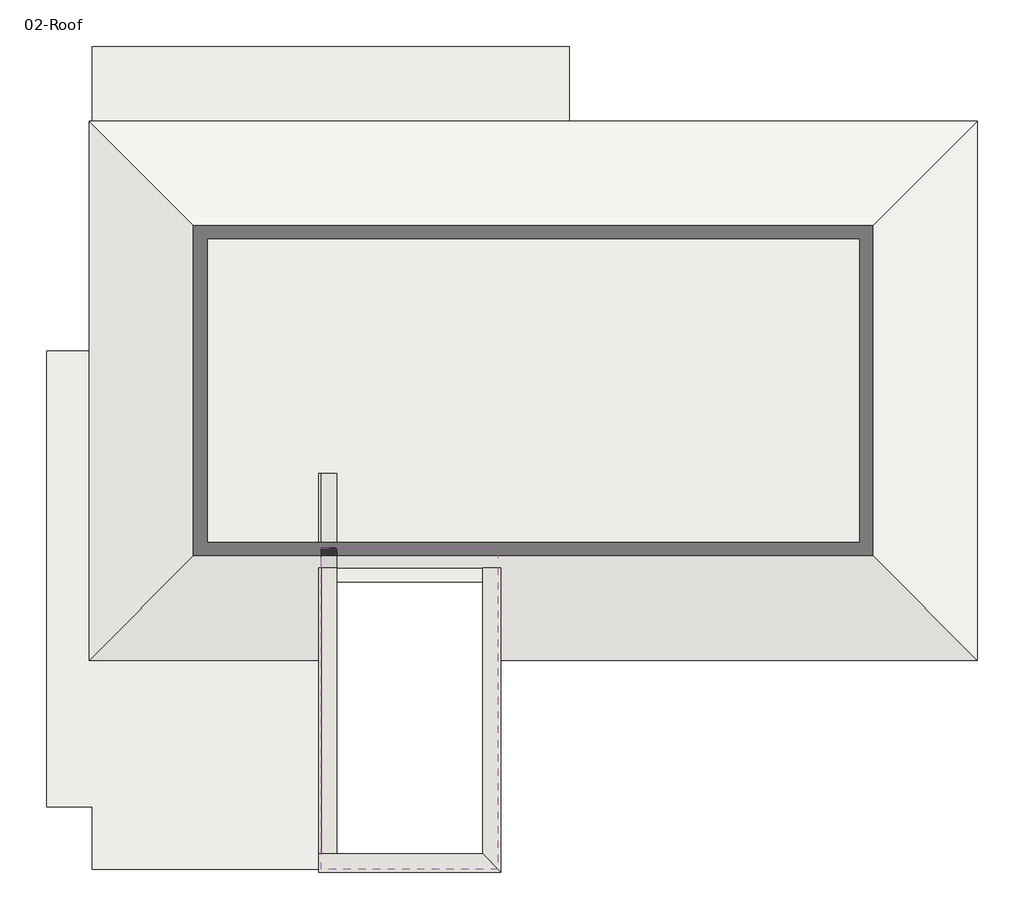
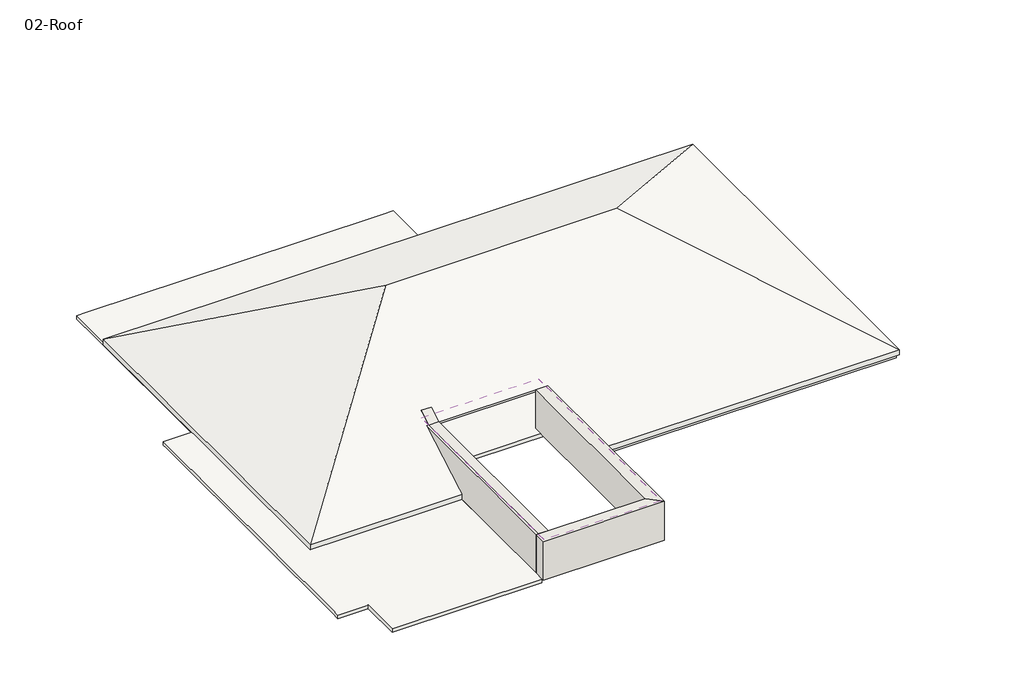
# One storey: 3 walls, 2 roofs, 1 slab.
"""IFC4 building model written with IfcOpenShell, lengths in millimetres."""

from ifc_helpers import new_model, si_unit, frame, origin, place, context, project, spatial, polyline, outline, extrude, faceted_brep, element, save

model = new_model("IFC4")

# Units and contexts
model_context = context("Model", 3, world=origin())
ifc_project = project(units=[si_unit("LENGTHUNIT", "METRE", prefix="MILLI")], contexts=[model_context])

# Site, building, storey
site = spatial("IfcSite", under=ifc_project)
building = spatial("IfcBuilding", under=site)
storey = spatial("IfcBuildingStorey", under=building, Name="02-Roof", Elevation=3500.0)

# Roofs
placement = place(None, origin())
element("IfcRoof", 1, ObjectType="Generic - 125mm", at=placement, inside=storey, context=model_context, shape_type="Brep", body=[
    faceted_brep([(-8596.7546759, -507.6867276, 6233.068918), (-13330.5689025, 4226.127499, 3500.0), (2256.4825148, 4226.127499, 3500.0), (-2477.3317118, -507.6867276, 6233.068918), (-13330.5689025, -5241.5009541, 3500.0), (2256.4825148, -5241.5009541, 3500.0), (-6107.8802351, -5241.5009541, 3500.0), (-6107.8802351, -3558.3860819, 4471.7468245), (-9257.8802351, -3558.3860819, 4471.7468245), (-9257.8802351, -3866.5009541, 4293.8566201), (-9307.8802351, -3866.5009541, 4293.8566201), (-9307.8802351, -5241.5009541, 3500.0), (-13330.5689025, 4226.127499, 3644.3375673), (-8596.7546759, -507.6867276, 6377.4064853), (-2477.3317118, -507.6867276, 6377.4064853), (2256.4825148, 4226.127499, 3644.3375673), (-13330.5689025, -5241.5009541, 3644.3375673), (2256.4825148, -5241.5009541, 3644.3375673), (-9307.8802351, -5241.5009541, 3644.3375673), (-9307.8802351, -3866.5009541, 4438.1941874), (-9257.8802351, -3866.5009541, 4438.1941874), (-9257.8802351, -3620.8860819, 4580.0), (-6107.8802351, -3620.8860819, 4580.0), (-6107.8802351, -5241.5009541, 3644.3375673)], [[[0, 1, 2, 3]], [[1, 0, 4]], [[3, 2, 5]], [[0, 3, 5, 6, 7, 8, 9, 10, 11, 4]], [[12, 13, 14, 15]], [[13, 12, 16]], [[15, 14, 17]], [[14, 13, 16, 18, 19, 20, 21, 22, 23, 17]], [[16, 12, 1, 4]], [[18, 16, 4, 11]], [[15, 17, 5, 2]], [[12, 15, 2, 1]], [[17, 23, 6, 5]], [[18, 11, 10, 19]], [[22, 7, 6, 23]], [[19, 10, 9, 20]], [[8, 21, 20, 9]], [[7, 22, 21, 8]]]),
])
element("IfcRoof", 2, ObjectType="Generic - 200mm", at=placement, inside=storey, context=model_context, shape_type="SweptSolid", body=[
    extrude(outline(polyline([(-8912.9805769, 4780.0), (-3274.4759204, 4780.0), (-3620.8860819, 4580.0), (-8912.9805769, 4580.0), (-8912.9805769, 4780.0)])), frame((-9257.8802351, 0.0, 0.0), z_axis=(1.0, 0.0, 0.0), x_axis=(0.0, 1.0, 0.0)), (0.0, 0.0, 1.0), 3100.0),
])

# Slab
element("IfcSlab", 3, ObjectType="Floor-Concrete 100mm", at=placement, inside=storey, context=model_context, shape_type="Brep", body=[
    faceted_brep([(-13280.5689025, 5533.8965304, 3400.0), (-13030.5689025, 5533.8965304, 3400.0), (-13010.5689025, 5533.8965304, 3400.0), (-9315.0580776, 5533.8965304, 3400.0), (-9065.0580776, 5533.8965304, 3400.0), (-9045.0580776, 5533.8965304, 3400.0), (-5177.8802351, 5533.8965304, 3400.0), (-4907.8802351, 5533.8965304, 3400.0), (-4907.8802351, 4226.127499, 3400.0), (-4907.8802351, 4176.127499, 3400.0), (1956.4825148, 4176.127499, 3400.0), (2206.4825148, 4176.127499, 3400.0), (2206.4825148, 3576.127499, 3400.0), (2206.4825148, 33.8965304, 3400.0), (2206.4825148, -766.1034696, 3400.0), (2206.4825148, -3866.5009541, 3400.0), (2206.4825148, -4666.5009541, 3400.0), (2206.4825148, -5191.5009541, 3400.0), (-6107.8802351, -5191.5009541, 3400.0), (-6107.8802351, -4921.5009541, 3400.0), (-6107.8802351, -3866.5009541, 3400.0), (-9315.0580776, -3866.5009541, 3400.0), (-9315.0580776, -8642.9805769, 3400.0), (-9315.0580776, -8912.9805769, 3400.0), (-13280.5689025, -8912.9805769, 3400.0), (-13280.5689025, -7816.5009541, 3400.0), (-13330.5689025, -7816.5009541, 3400.0), (-14080.5689025, -7816.5009541, 3400.0), (-14080.5689025, -7546.5009541, 3400.0), (-14080.5689025, -4318.0271687, 3400.0), (-14080.5689025, -3518.0271687, 3400.0), (-14080.5689025, -766.1034696, 3400.0), (-14080.5689025, 33.8965304, 3400.0), (-14080.5689025, 183.8965304, 3400.0), (-13330.5689025, 183.8965304, 3400.0), (-13280.5689025, 183.8965304, 3400.0), (-13280.5689025, 4733.8965304, 3400.0), (-13280.5689025, 5533.8965304, 3500.0), (-13280.5689025, 183.8965304, 3500.0), (-13330.5689025, 183.8965304, 3500.0), (-14080.5689025, 183.8965304, 3500.0), (-14080.5689025, -7546.5009541, 3500.0), (-14080.5689025, -7816.5009541, 3500.0), (-13330.5689025, -7816.5009541, 3500.0), (-13280.5689025, -7816.5009541, 3500.0), (-13280.5689025, -8912.9805769, 3500.0), (-9315.0580776, -8912.9805769, 3500.0), (-9315.0580776, -8642.9805769, 3500.0), (-9315.0580776, -4666.5009541, 3500.0), (-9315.0580776, -3866.5009541, 3500.0), (-9065.0580776, -3866.5009541, 3500.0), (-6407.8802351, -3866.5009541, 3500.0), (-6157.8802351, -3866.5009541, 3500.0), (-6107.8802351, -3866.5009541, 3500.0), (-6107.8802351, -5191.5009541, 3500.0), (2206.4825148, -5191.5009541, 3500.0), (2206.4825148, 4176.127499, 3500.0), (-4907.8802351, 4176.127499, 3500.0), (-4907.8802351, 4226.127499, 3500.0), (-4907.8802351, 5533.8965304, 3500.0), (-5177.8802351, 5533.8965304, 3500.0), (-9045.0580776, 5533.8965304, 3500.0), (-13010.5689025, 5533.8965304, 3500.0), (-9315.0580776, -8912.9805769, 3444.3375673), (-13280.5689025, -8912.9805769, 3444.3375673), (-13280.5689025, -7816.5009541, 3444.3375673), (-14080.5689025, -7816.5009541, 3444.3375673), (-13280.5689025, 183.8965304, 3444.3375673)], [[[0, 1, 2, 3, 4, 5, 6, 7, 8, 9, 10, 11, 12, 13, 14, 15, 16, 17, 18, 19, 20, 21, 22, 23, 24, 25, 26, 27, 28, 29, 30, 31, 32, 33, 34, 35, 36]], [[37, 38, 39, 40, 41, 42, 43, 44, 45, 46, 47, 48, 49, 50, 51, 52, 53, 54, 55, 56, 57, 58, 59, 60, 61, 62]], [[7, 6, 5, 4, 3, 2, 1, 0, 37, 62, 61, 60, 59]], [[9, 8, 7, 59, 58, 57]], [[11, 10, 9, 57, 56]], [[17, 16, 15, 14, 13, 12, 11, 56, 55]], [[18, 17, 55, 54]], [[24, 23, 63, 46, 45, 64]], [[25, 24, 64, 45, 44, 65]], [[27, 26, 25, 65, 44, 43, 42, 66]], [[33, 32, 31, 30, 29, 28, 27, 66, 42, 41, 40]], [[35, 34, 33, 40, 39, 38, 67]], [[0, 36, 35, 67, 38, 37]], [[20, 19, 18, 54, 53]], [[21, 20, 53, 52, 51, 50, 49]], [[23, 22, 21, 49, 48, 47, 46, 63]]]),
])

# Walls
element("IfcWall", 4, ObjectType="Exterior Wall 50+100+50+100 CMU", at=placement, inside=storey, context=model_context, shape_type="Brep", body=[
    faceted_brep([(-6427.8802351, -3620.8860819, 3500.0), (-6427.8802351, -3866.5009541, 3500.0), (-6427.8802351, -8642.9805769, 3500.0), (-6427.8802351, -8642.9805769, 4580.0), (-6427.8802351, -3620.8860819, 4580.0), (-6107.8802351, -3620.8860819, 3500.0), (-6107.8802351, -3620.8860819, 4580.0), (-6107.8802351, -8962.9805769, 4580.0), (-6107.8802351, -8962.9805769, 3500.0), (-6107.8802351, -3866.5009541, 3500.0)], [[[0, 1, 2, 3, 4]], [[5, 6, 7, 8, 9]], [[2, 1, 0, 5, 9, 8]], [[4, 3, 7, 6]], [[0, 4, 6, 5]], [[3, 2, 8, 7]]]),
])
element("IfcWall", 5, ObjectType="Exterior Wall 50+100+50+100 CMU", at=placement, inside=storey, context=model_context, shape_type="Brep", body=[
    faceted_brep([(-6427.8802351, -8642.9805769, 3500.0), (-8987.8802351, -8642.9805769, 3500.0), (-9190.0580776, -8642.9805769, 3500.0), (-9307.8802351, -8642.9805769, 3500.0), (-9307.8802351, -8642.9805769, 4580.0), (-8987.8802351, -8642.9805769, 4580.0), (-6427.8802351, -8642.9805769, 4580.0), (-6107.8802351, -8962.9805769, 3500.0), (-6107.8802351, -8962.9805769, 4580.0), (-9307.8802351, -8962.9805769, 4580.0), (-9307.8802351, -8962.9805769, 3500.0), (-9190.0580776, -8962.9805769, 3500.0)], [[[0, 1, 2, 3, 4, 5, 6]], [[7, 8, 9, 10, 11]], [[3, 2, 1, 0, 7, 11, 10]], [[6, 5, 4, 9, 8]], [[0, 6, 8, 7]], [[4, 3, 10, 9]]]),
])
element("IfcWall", 6, ObjectType="Exterior Wall 50+100+50+100 CMU", at=placement, inside=storey, context=model_context, shape_type="Brep", body=[
    faceted_brep([(-8987.8802351, -8642.9805769, 3500.0), (-8987.8802351, -1965.2824965, 3500.0), (-8987.8802351, -1965.2824965, 4580.0), (-8987.8802351, -3274.4759204, 4580.0), (-8987.8802351, -3274.4759204, 4780.0), (-8987.8802351, -3620.8860819, 4580.0), (-8987.8802351, -8642.9805769, 4580.0), (-9307.8802351, -8642.9805769, 3500.0), (-9307.8802351, -8642.9805769, 4580.0), (-9307.8802351, -3274.4759204, 4580.0), (-9307.8802351, -1965.2824965, 4580.0), (-9307.8802351, -1965.2824965, 3500.0), (-9257.8802351, -8642.9805769, 4580.0), (-9257.8802351, -3274.4759204, 4580.0), (-9257.8802351, -3620.8860819, 4580.0), (-9257.8802351, -3274.4759204, 4780.0), (-9257.8802351, -1965.2824965, 4580.0)], [[[0, 1, 2, 3, 4, 5, 6]], [[7, 8, 9, 10, 11]], [[1, 0, 7, 11]], [[0, 6, 12, 8, 7]], [[13, 14, 15]], [[3, 2, 16, 13]], [[3, 13, 15, 4]], [[9, 8, 12, 14, 13]], [[16, 10, 9, 13]], [[6, 5, 14, 12]], [[5, 4, 15, 14]], [[2, 1, 11, 10, 16]]]),
])

save(model, "model.ifc")
